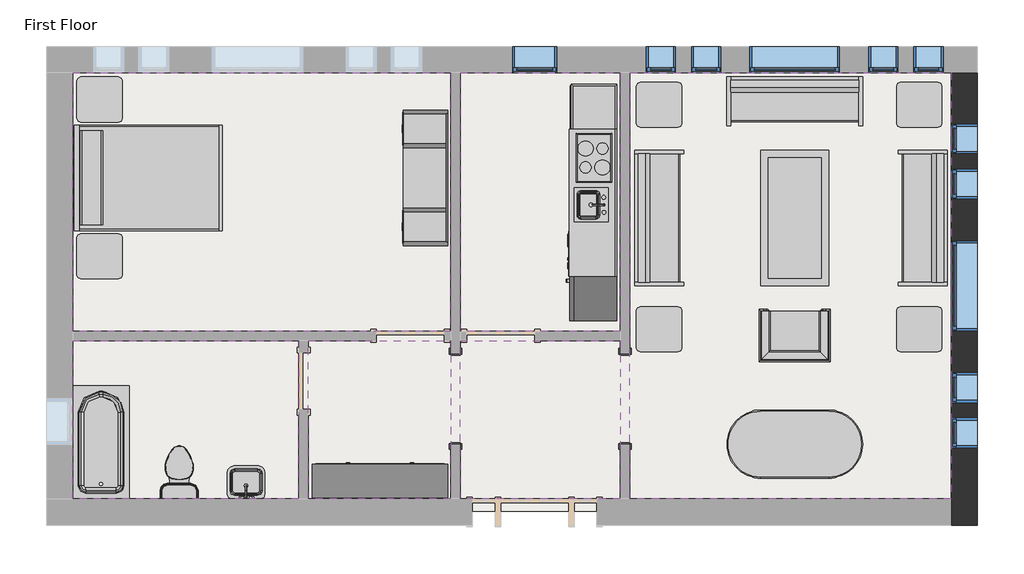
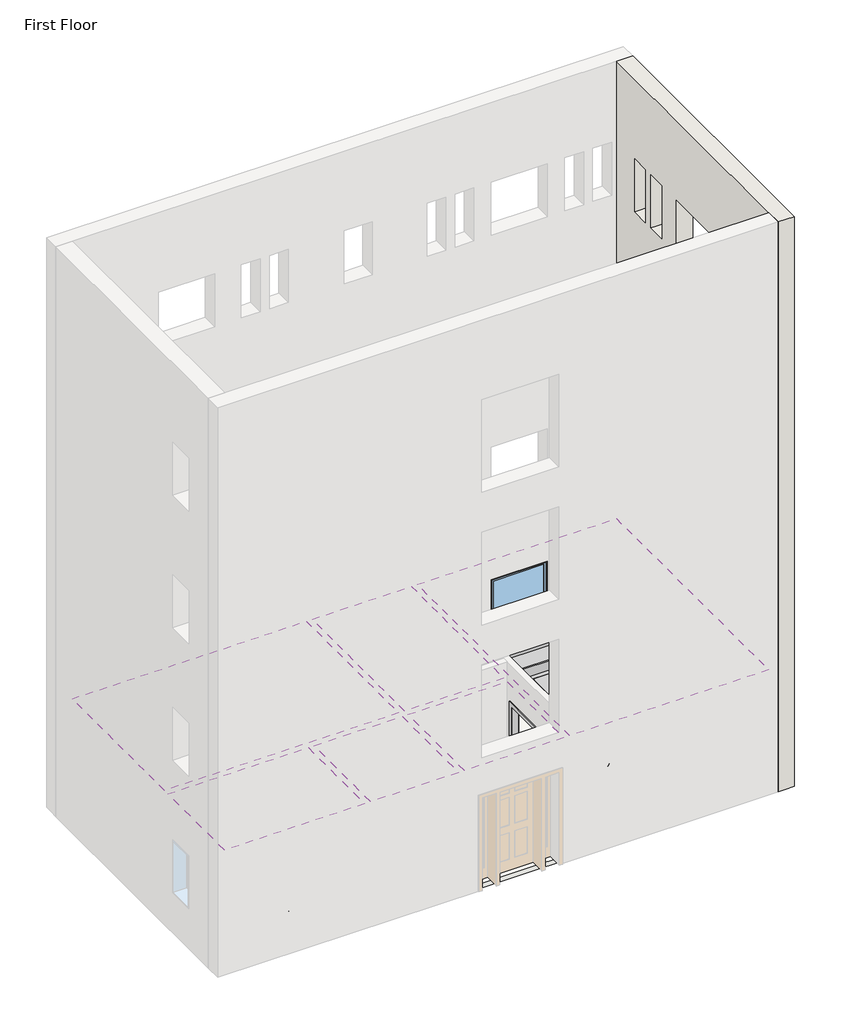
# One storey, part 2 of 2: 15 furniture elements, 11 windows, 6 coverings, 3 flow terminals, 3 proxies, 1 slab, 1 wall.
"""IFC4 building model written with IfcOpenShell, lengths in millimetres."""

from ifc_helpers import new_model, si_unit, frame, origin, place, context, project, spatial, polyline, outline, extrude, faceted_brep, transform, mapped, element, save
from components import proxy_64a468c4, proxy_f44482cc, flow_terminal_0aeb31e3, toilet_domestic_3d_toilet_domestic_3d_f7549cf7, toilet_domestic_3d_toilet_domestic_3d_183bbd19, tub_rectangular_3d_tub_rectangular_3d_5e45a89b, furniture_096e7f55, chair_corbu_chair_corbu_2764bdef, furniture_7c473f12, furniture_ddc78764, furniture_4ef38d96, furniture_cd93a443, furniture_2c34a4f9, furniture_3a588284, furniture_1befe2a2, window_da97879f, window_d61ef850, window_60baf983, window_6eb97611

model = new_model("IFC4")

# Units and contexts
model_context = context("Model", 3, world=origin())
ifc_project = project(units=[si_unit("LENGTHUNIT", "METRE", prefix="MILLI")], contexts=[model_context])

# Site, building, storey
site = spatial("IfcSite", under=ifc_project)
building = spatial("IfcBuilding", under=site)
storey = spatial("IfcBuildingStorey", under=building, Name="First Floor", Elevation=0.0)

# Proxies
placement = place(None, origin())
proxy_shape = proxy_64a468c4(model_context)
element("IfcBuildingElementProxy", 1, Name="Kitchenette - Medium : 8'6\"", ObjectType="Kitchenette - Medium : 8'6\"", at=placement, inside=storey, context=model_context, shape_type="MappedRepresentation", body=[
    mapped(proxy_shape, transform((-3887.7589563, 8837.7956433, 0.0), x_axis=(0.0, -1.0, 0.0), y_axis=(1.0, 0.0, 0.0), z_axis=(0.0, 0.0, 1.0))),
])
proxy_2_shape = proxy_f44482cc(model_context)
element("IfcBuildingElementProxy", 2, Name="Opening-Cased : 48\" x 84\"", ObjectType="Opening-Cased : 48\" x 84\"", at=placement, inside=storey, context=model_context, shape_type="MappedRepresentation", body=[
    mapped(proxy_2_shape, transform((-3773.4589563, 5882.4203434, 0.0), x_axis=(0.0, 1.0, 0.0), y_axis=(-1.0, 0.0, 0.0), z_axis=(0.0, 0.0, 1.0))),
])
element("IfcBuildingElementProxy", 3, Name="Opening-Cased : 48\" x 84\"", ObjectType="Opening-Cased : 48\" x 84\"", at=placement, inside=storey, context=model_context, shape_type="MappedRepresentation", body=[
    mapped(proxy_2_shape, transform((-6059.4589563, 5866.04303, 0.0), x_axis=(0.0, -1.0, 0.0), y_axis=(1.0, 0.0, 0.0), z_axis=(0.0, 0.0, 1.0))),
])

# Coverings
element("IfcCovering", 4, ObjectType="GWB on Mtl. Stud", at=placement, inside=storey, context=model_context, shape_type="SweptSolid", body=[
    extrude(outline(polyline([(-11217.2464563, 10270.0191867), (-6122.9589563, 10270.0191867), (-6122.9589563, 6787.0441867), (-11217.2464563, 6787.0441867), (-11217.2464563, 10270.0191867)])), frame((0.0, 0.0, 2590.8), z_axis=(0.0, 0.0, 1.0), x_axis=(1.0, 0.0, 0.0)), (0.0, 0.0, 1.0), 107.95),
])
element("IfcCovering", 5, ObjectType="GWB on Mtl. Stud", at=placement, inside=storey, context=model_context, shape_type="SweptSolid", body=[
    extrude(outline(polyline([(-5995.9589563, 6787.0441867), (-5995.9589563, 10270.0191867), (-3836.9589563, 10270.0191867), (-3836.9589563, 6787.0441867), (-5995.9589563, 6787.0441867)])), frame((0.0, 0.0, 2590.8), z_axis=(0.0, 0.0, 1.0), x_axis=(1.0, 0.0, 0.0)), (0.0, 0.0, 1.0), 107.95),
])
element("IfcCovering", 6, ObjectType="GWB on Mtl. Stud", at=placement, inside=storey, context=model_context, shape_type="SweptSolid", body=[
    extrude(outline(polyline([(-3709.9589563, 4526.4441867), (-3709.9589563, 10270.0191867), (622.3285437, 10270.0191867), (622.3285437, 4526.4441867), (-3709.9589563, 4526.4441867)])), frame((0.0, 0.0, 2590.8), z_axis=(0.0, 0.0, 1.0), x_axis=(1.0, 0.0, 0.0)), (0.0, 0.0, 1.0), 107.95),
])
element("IfcCovering", 7, ObjectType="GWB on Mtl. Stud", at=placement, inside=storey, context=model_context, shape_type="SweptSolid", body=[
    extrude(outline(polyline([(-3836.9589563, 4526.4441867), (-5995.9589563, 4526.4441867), (-5995.9589563, 6660.0441867), (-3836.9589563, 6660.0441867), (-3836.9589563, 4526.4441867)])), frame((0.0, 0.0, 2590.8), z_axis=(0.0, 0.0, 1.0), x_axis=(1.0, 0.0, 0.0)), (0.0, 0.0, 1.0), 107.95),
])
element("IfcCovering", 8, ObjectType="GWB on Mtl. Stud", at=placement, inside=storey, context=model_context, shape_type="SweptSolid", body=[
    extrude(outline(polyline([(-6122.9589563, 4526.4441867), (-8042.2464563, 4526.4441867), (-8042.2464563, 6660.0441867), (-6122.9589563, 6660.0441867), (-6122.9589563, 4526.4441867)])), frame((0.0, 0.0, 2590.8), z_axis=(0.0, 0.0, 1.0), x_axis=(1.0, 0.0, 0.0)), (0.0, 0.0, 1.0), 107.95),
])
element("IfcCovering", 9, ObjectType="GWB on Mtl. Stud", at=placement, inside=storey, context=model_context, shape_type="SweptSolid", body=[
    extrude(outline(polyline([(-8169.2464563, 6660.0441867), (-8169.2464563, 4526.4441867), (-11217.2464563, 4526.4441867), (-11217.2464563, 6660.0441867), (-8169.2464563, 6660.0441867)])), frame((0.0, 0.0, 2590.8), z_axis=(0.0, 0.0, 1.0), x_axis=(1.0, 0.0, 0.0)), (0.0, 0.0, 1.0), 107.95),
])

# Flow terminals
flow_terminal_shape = flow_terminal_0aeb31e3(model_context)
element("IfcFlowTerminal", 10, ObjectType="Sink Vanity-Square : 24\" x 19\"", at=placement, inside=storey, context=model_context, shape_type="MappedRepresentation", body=[
    mapped(flow_terminal_shape, transform((-8864.7572157, 4706.5895878, 0.0), x_axis=(-1.0, 0.0, 0.0), y_axis=(0.0, -1.0, 0.0), z_axis=(0.0, 0.0, 1.0))),
])
toilet_domestic_3d_toilet_domestic_3d_shape = toilet_domestic_3d_toilet_domestic_3d_f7549cf7(model_context)
toilet_domestic_3d_toilet_domestic_3d_2_shape = toilet_domestic_3d_toilet_domestic_3d_183bbd19(model_context)
element("IfcFlowTerminal", 11, ObjectType="Toilet-Domestic-3D : Toilet-Domestic-3D", at=placement, inside=storey, context=model_context, shape_type="MappedRepresentation", body=[
    mapped(toilet_domestic_3d_toilet_domestic_3d_shape, transform((-9782.1466587, 4940.866411, 0.0), x_axis=(-1.0000000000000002, 0.0, 0.0), y_axis=(0.0, -1.0000000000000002, 0.0), z_axis=(0.0, 0.0, 1.0))),
    mapped(toilet_domestic_3d_toilet_domestic_3d_2_shape, transform((-9782.1466587, 4940.866411, 0.0), x_axis=(-1.0000000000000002, 0.0, 0.0), y_axis=(0.0, -1.0000000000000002, 0.0), z_axis=(0.0, 0.0, 1.0))),
])
tub_rectangular_3d_tub_rectangular_3d_shape = tub_rectangular_3d_tub_rectangular_3d_5e45a89b(model_context)
element("IfcFlowTerminal", 12, ObjectType="Tub-Rectangular-3D : Tub-Rectangular-3D", at=placement, inside=storey, context=model_context, shape_type="MappedRepresentation", body=[
    mapped(tub_rectangular_3d_tub_rectangular_3d_shape, transform((-11393.4589563, 5637.0471554, 0.0), x_axis=(0.0, 1.0, 0.0), y_axis=(-1.0, 0.0, 0.0), z_axis=(0.0, 0.0, 1.0))),
])

# Furniture
furniture_shape = furniture_096e7f55(model_context)
element("IfcFurniture", 13, ObjectType="Bed-Shaker : Double 56\" x 78\"", at=placement, inside=storey, context=model_context, shape_type="MappedRepresentation", body=[
    mapped(furniture_shape, transform((-11183.1982802, 8871.8755561, 0.0), x_axis=(0.0, 1.0, 0.0), y_axis=(-1.0, 0.0, 0.0), z_axis=(0.0, 0.0, 1.0))),
])
chair_corbu_chair_corbu_shape = chair_corbu_chair_corbu_2764bdef(model_context)
element("IfcFurniture", 14, ObjectType="Chair-Corbu : Chair-Corbu", at=placement, inside=storey, context=model_context, shape_type="MappedRepresentation", body=[
    mapped(chair_corbu_chair_corbu_shape, transform((-914.0851858, 7193.4962359, 0.0), x_axis=(-1.0, 0.0, 0.0), y_axis=(0.0, -1.0, 0.0), z_axis=(0.0, 0.0, 1.0))),
])
furniture_2_shape = furniture_7c473f12(model_context)
element("IfcFurniture", 15, ObjectType="Dresser : 72\" x 60\" x 18\"", at=placement, inside=storey, context=model_context, shape_type="MappedRepresentation", body=[
    mapped(furniture_2_shape, transform((-7344.6522161, 4404.5812326, 0.0), x_axis=(-1.0, 0.0, 0.0), y_axis=(0.0, -1.0, 0.0), z_axis=(0.0, 0.0, 1.0))),
])
furniture_3_shape = furniture_ddc78764(model_context)
element("IfcFurniture", 16, ObjectType="Entertainment Center : 72\" x 72\" x 24\"", at=placement, inside=storey, context=model_context, shape_type="MappedRepresentation", body=[
    mapped(furniture_3_shape, transform((-6059.4589563, 8852.8255561, 0.0), x_axis=(0.0, -1.0, 0.0), y_axis=(1.0, 0.0, 0.0), z_axis=(0.0, 0.0, 1.0))),
])
furniture_4_shape = furniture_4ef38d96(model_context)
element("IfcFurniture", 17, ObjectType="Sofa : 72\"", at=placement, inside=storey, context=model_context, shape_type="MappedRepresentation", body=[
    mapped(furniture_4_shape, transform((-1557.8294481, 9741.2775883, 0.0), x_axis=(1.0, 0.0, 0.0), y_axis=(0.0, 1.0, 0.0), z_axis=(0.0, 0.0, 1.0))),
])
element("IfcFurniture", 18, ObjectType="Sofa : 72\"", at=placement, inside=storey, context=model_context, shape_type="MappedRepresentation", body=[
    mapped(furniture_4_shape, transform((93.5869453, 8383.0021785, 0.0), x_axis=(0.0, -1.0, 0.0), y_axis=(1.0, 0.0, 0.0), z_axis=(0.0, 0.0, 1.0))),
])
element("IfcFurniture", 19, ObjectType="Sofa : 72\"", at=placement, inside=storey, context=model_context, shape_type="MappedRepresentation", body=[
    mapped(furniture_4_shape, transform((-3170.104858, 8242.2611949, 0.0), x_axis=(0.0, 1.0, 0.0), y_axis=(-1.0, 0.0, 0.0), z_axis=(0.0, 0.0, 1.0))),
])
furniture_5_shape = furniture_cd93a443(model_context)
element("IfcFurniture", 20, ObjectType="Table-Coffee : 36\" x 72\" x 18\"", at=placement, inside=storey, context=model_context, shape_type="MappedRepresentation", body=[
    mapped(furniture_5_shape, transform((-1582.6700341, 8330.8974534, 0.0), x_axis=(0.0, -1.0, 0.0), y_axis=(1.0, 0.0, 0.0), z_axis=(0.0, 0.0, 1.0))),
])
furniture_6_shape = furniture_2c34a4f9(model_context)
element("IfcFurniture", 21, ObjectType="Table-Dining Oval : 36\" x 72\"", at=placement, inside=storey, context=model_context, shape_type="MappedRepresentation", body=[
    mapped(furniture_6_shape, transform((-1085.6392842, 5622.7300473, 0.0), x_axis=(1.0, 0.0, 0.0), y_axis=(0.0, 1.0, 0.0), z_axis=(0.0, 0.0, 1.0))),
])
furniture_7_shape = furniture_3a588284(model_context)
element("IfcFurniture", 22, ObjectType="Table-End : 24\" x 24\"", at=placement, inside=storey, context=model_context, shape_type="MappedRepresentation", body=[
    mapped(furniture_7_shape, transform((-119.5925866, 9684.2316867, 0.0), x_axis=(1.0, 0.0, 0.0), y_axis=(0.0, 1.0, 0.0), z_axis=(0.0, 0.0, 1.0))),
])
element("IfcFurniture", 23, ObjectType="Table-End : 24\" x 24\"", at=placement, inside=storey, context=model_context, shape_type="MappedRepresentation", body=[
    mapped(furniture_7_shape, transform((-3624.7925866, 9684.2316867, 0.0), x_axis=(1.0, 0.0, 0.0), y_axis=(0.0, 1.0, 0.0), z_axis=(0.0, 0.0, 1.0))),
])
element("IfcFurniture", 24, ObjectType="Table-End : 24\" x 24\"", at=placement, inside=storey, context=model_context, shape_type="MappedRepresentation", body=[
    mapped(furniture_7_shape, transform((-3624.7925866, 6660.0441867, 0.0), x_axis=(1.0, 0.0, 0.0), y_axis=(0.0, 1.0, 0.0), z_axis=(0.0, 0.0, 1.0))),
])
element("IfcFurniture", 25, ObjectType="Table-End : 24\" x 24\"", at=placement, inside=storey, context=model_context, shape_type="MappedRepresentation", body=[
    mapped(furniture_7_shape, transform((-119.5925866, 6660.0441867, 0.0), x_axis=(1.0, 0.0, 0.0), y_axis=(0.0, 1.0, 0.0), z_axis=(0.0, 0.0, 1.0))),
])
element("IfcFurniture", 26, ObjectType="Table-End : 24\" x 24\"", at=placement, inside=storey, context=model_context, shape_type="MappedRepresentation", body=[
    mapped(furniture_7_shape, transform((-11164.2346356, 9756.0737357, 0.0), x_axis=(1.0, 0.0, 0.0), y_axis=(0.0, 1.0, 0.0), z_axis=(0.0, 0.0, 1.0))),
])
furniture_8_shape = furniture_1befe2a2(model_context)
element("IfcFurniture", 27, ObjectType="Table-End : 24\" x 24\"", at=placement, inside=storey, context=model_context, shape_type="MappedRepresentation", body=[
    mapped(furniture_8_shape, transform((-11164.2346356, 7949.5773764, 0.0), x_axis=(1.0, 0.0, 0.0), y_axis=(0.0, 1.0, 0.0), z_axis=(0.0, 0.0, 1.0))),
])

# Slab
element("IfcSlab", 28, ObjectType="LW Concrete on Metal Deck", at=placement, inside=storey, context=model_context, shape_type="SweptSolid", body=[
    extrude(outline(polyline([(787.4285437, 10435.1191867), (787.4285437, 4361.3441867), (-11382.3464563, 4361.3441867), (-11382.3464563, 10435.1191867), (787.4285437, 10435.1191867)])), frame((0.0, 0.0, -104.775), z_axis=(0.0, 0.0, 1.0), x_axis=(1.0, 0.0, 0.0)), (0.0, 0.0, 1.0), 104.775),
])

# Wall
element("IfcWall", 29, ObjectType="Exterior - Brick on Mtl. Stud", at=placement, inside=storey, context=model_context, shape_type="Brep", body=[
    faceted_brep([(622.3285437, 10270.0191867, 0.0), (622.3285437, 4526.4441867, 0.0), (622.3285437, 4361.3441867, 0.0), (622.3285437, 4174.0191867, 0.0), (622.3285437, 4174.0191867, 13106.4), (622.3285437, 4526.4441867, 13106.4), (622.3285437, 10270.0191867, 13106.4), (622.3285437, 8007.8316867, 2133.6), (622.3285437, 6788.6316867, 2133.6), (622.3285437, 6788.6316867, 914.4), (622.3285437, 8007.8316867, 914.4), (622.3285437, 9582.6316867, 2133.6), (622.3285437, 9176.2316867, 2133.6), (622.3285437, 9176.2316867, 914.4), (622.3285437, 9582.6316867, 914.4), (622.3285437, 8973.0316867, 2133.6), (622.3285437, 8566.6316867, 2133.6), (622.3285437, 8566.6316867, 914.4), (622.3285437, 8973.0316867, 914.4), (622.3285437, 5213.8316867, 2133.6), (622.3285437, 5213.8316867, 914.4), (622.3285437, 5620.2316867, 914.4), (622.3285437, 5620.2316867, 2133.6), (622.3285437, 5823.4316867, 2133.6), (622.3285437, 5823.4316867, 914.4), (622.3285437, 6229.8316867, 914.4), (622.3285437, 6229.8316867, 2133.6), (622.3285437, 8007.8316867, 11277.6), (622.3285437, 6788.6316867, 11277.6), (622.3285437, 6788.6316867, 10058.4), (622.3285437, 8007.8316867, 10058.4), (622.3285437, 9582.6316867, 11277.6), (622.3285437, 9176.2316867, 11277.6), (622.3285437, 9176.2316867, 10058.4), (622.3285437, 9582.6316867, 10058.4), (622.3285437, 8973.0316867, 11277.6), (622.3285437, 8566.6316867, 11277.6), (622.3285437, 8566.6316867, 10058.4), (622.3285437, 8973.0316867, 10058.4), (622.3285437, 5213.8316867, 11277.6), (622.3285437, 5213.8316867, 10058.4), (622.3285437, 5620.2316867, 10058.4), (622.3285437, 5620.2316867, 11277.6), (622.3285437, 5823.4316867, 11277.6), (622.3285437, 5823.4316867, 10058.4), (622.3285437, 6229.8316867, 10058.4), (622.3285437, 6229.8316867, 11277.6), (622.3285437, 8007.8316867, 5181.6), (622.3285437, 6788.6316867, 5181.6), (622.3285437, 6788.6316867, 3962.4), (622.3285437, 8007.8316867, 3962.4), (622.3285437, 9582.6316867, 5181.6), (622.3285437, 9176.2316867, 5181.6), (622.3285437, 9176.2316867, 3962.4), (622.3285437, 9582.6316867, 3962.4), (622.3285437, 8973.0316867, 5181.6), (622.3285437, 8566.6316867, 5181.6), (622.3285437, 8566.6316867, 3962.4), (622.3285437, 8973.0316867, 3962.4), (622.3285437, 5213.8316867, 5181.6), (622.3285437, 5213.8316867, 3962.4), (622.3285437, 5620.2316867, 3962.4), (622.3285437, 5620.2316867, 5181.6), (622.3285437, 5823.4316867, 5181.6), (622.3285437, 5823.4316867, 3962.4), (622.3285437, 6229.8316867, 3962.4), (622.3285437, 6229.8316867, 5181.6), (622.3285437, 8007.8316867, 8229.6), (622.3285437, 6788.6316867, 8229.6), (622.3285437, 6788.6316867, 7010.4), (622.3285437, 8007.8316867, 7010.4), (622.3285437, 9582.6316867, 8229.6), (622.3285437, 9176.2316867, 8229.6), (622.3285437, 9176.2316867, 7010.4), (622.3285437, 9582.6316867, 7010.4), (622.3285437, 8973.0316867, 8229.6), (622.3285437, 8566.6316867, 8229.6), (622.3285437, 8566.6316867, 7010.4), (622.3285437, 8973.0316867, 7010.4), (622.3285437, 5213.8316867, 8229.6), (622.3285437, 5213.8316867, 7010.4), (622.3285437, 5620.2316867, 7010.4), (622.3285437, 5620.2316867, 8229.6), (622.3285437, 5823.4316867, 8229.6), (622.3285437, 5823.4316867, 7010.4), (622.3285437, 6229.8316867, 7010.4), (622.3285437, 6229.8316867, 8229.6), (974.7535437, 10270.0191867, 0.0), (974.7535437, 10270.0191867, 13106.4), (974.7535437, 4174.0191867, 13106.4), (974.7535437, 4174.0191867, 0.0), (974.7535437, 4361.3441867, 0.0), (974.7535437, 8007.8316867, 2133.6), (974.7535437, 8007.8316867, 914.4), (974.7535437, 6788.6316867, 914.4), (974.7535437, 6788.6316867, 2133.6), (974.7535437, 9582.6316867, 2133.6), (974.7535437, 9582.6316867, 914.4), (974.7535437, 9176.2316867, 914.4), (974.7535437, 9176.2316867, 2133.6), (974.7535437, 8973.0316867, 2133.6), (974.7535437, 8973.0316867, 914.4), (974.7535437, 8566.6316867, 914.4), (974.7535437, 8566.6316867, 2133.6), (974.7535437, 5213.8316867, 2133.6), (974.7535437, 5620.2316867, 2133.6), (974.7535437, 5620.2316867, 914.4), (974.7535437, 5213.8316867, 914.4), (974.7535437, 5823.4316867, 2133.6), (974.7535437, 6229.8316867, 2133.6), (974.7535437, 6229.8316867, 914.4), (974.7535437, 5823.4316867, 914.4), (974.7535437, 8007.8316867, 11277.6), (974.7535437, 8007.8316867, 10058.4), (974.7535437, 6788.6316867, 10058.4), (974.7535437, 6788.6316867, 11277.6), (974.7535437, 9582.6316867, 11277.6), (974.7535437, 9582.6316867, 10058.4), (974.7535437, 9176.2316867, 10058.4), (974.7535437, 9176.2316867, 11277.6), (974.7535437, 8973.0316867, 11277.6), (974.7535437, 8973.0316867, 10058.4), (974.7535437, 8566.6316867, 10058.4), (974.7535437, 8566.6316867, 11277.6), (974.7535437, 5213.8316867, 11277.6), (974.7535437, 5620.2316867, 11277.6), (974.7535437, 5620.2316867, 10058.4), (974.7535437, 5213.8316867, 10058.4), (974.7535437, 5823.4316867, 11277.6), (974.7535437, 6229.8316867, 11277.6), (974.7535437, 6229.8316867, 10058.4), (974.7535437, 5823.4316867, 10058.4), (974.7535437, 8007.8316867, 5181.6), (974.7535437, 8007.8316867, 3962.4), (974.7535437, 6788.6316867, 3962.4), (974.7535437, 6788.6316867, 5181.6), (974.7535437, 9582.6316867, 5181.6), (974.7535437, 9582.6316867, 3962.4), (974.7535437, 9176.2316867, 3962.4), (974.7535437, 9176.2316867, 5181.6), (974.7535437, 8973.0316867, 5181.6), (974.7535437, 8973.0316867, 3962.4), (974.7535437, 8566.6316867, 3962.4), (974.7535437, 8566.6316867, 5181.6), (974.7535437, 5213.8316867, 5181.6), (974.7535437, 5620.2316867, 5181.6), (974.7535437, 5620.2316867, 3962.4), (974.7535437, 5213.8316867, 3962.4), (974.7535437, 5823.4316867, 5181.6), (974.7535437, 6229.8316867, 5181.6), (974.7535437, 6229.8316867, 3962.4), (974.7535437, 5823.4316867, 3962.4), (974.7535437, 8007.8316867, 8229.6), (974.7535437, 8007.8316867, 7010.4), (974.7535437, 6788.6316867, 7010.4), (974.7535437, 6788.6316867, 8229.6), (974.7535437, 9582.6316867, 8229.6), (974.7535437, 9582.6316867, 7010.4), (974.7535437, 9176.2316867, 7010.4), (974.7535437, 9176.2316867, 8229.6), (974.7535437, 8973.0316867, 8229.6), (974.7535437, 8973.0316867, 7010.4), (974.7535437, 8566.6316867, 7010.4), (974.7535437, 8566.6316867, 8229.6), (974.7535437, 5213.8316867, 8229.6), (974.7535437, 5620.2316867, 8229.6), (974.7535437, 5620.2316867, 7010.4), (974.7535437, 5213.8316867, 7010.4), (974.7535437, 5823.4316867, 8229.6), (974.7535437, 6229.8316867, 8229.6), (974.7535437, 6229.8316867, 7010.4), (974.7535437, 5823.4316867, 7010.4), (787.4285437, 4174.0191867, 0.0), (787.4285437, 10270.0191867, 0.0), (787.4285437, 4361.3441867, 0.0)], [[[0, 1, 2, 3, 4, 5, 6], [7, 8, 9, 10], [11, 12, 13, 14], [15, 16, 17, 18], [19, 20, 21, 22], [23, 24, 25, 26], [27, 28, 29, 30], [31, 32, 33, 34], [35, 36, 37, 38], [39, 40, 41, 42], [43, 44, 45, 46], [47, 48, 49, 50], [51, 52, 53, 54], [55, 56, 57, 58], [59, 60, 61, 62], [63, 64, 65, 66], [67, 68, 69, 70], [71, 72, 73, 74], [75, 76, 77, 78], [79, 80, 81, 82], [83, 84, 85, 86]], [[87, 88, 89, 90, 91], [92, 93, 94, 95], [96, 97, 98, 99], [100, 101, 102, 103], [104, 105, 106, 107], [108, 109, 110, 111], [112, 113, 114, 115], [116, 117, 118, 119], [120, 121, 122, 123], [124, 125, 126, 127], [128, 129, 130, 131], [132, 133, 134, 135], [136, 137, 138, 139], [140, 141, 142, 143], [144, 145, 146, 147], [148, 149, 150, 151], [152, 153, 154, 155], [156, 157, 158, 159], [160, 161, 162, 163], [164, 165, 166, 167], [168, 169, 170, 171]], [[6, 5, 4, 89, 88]], [[4, 3, 172, 90, 89]], [[0, 6, 88, 87, 173]], [[173, 87, 91, 174]], [[3, 2, 174, 172]], [[174, 91, 90, 172]], [[2, 1, 0, 173, 174]], [[93, 92, 7, 10]], [[94, 93, 10, 9]], [[95, 94, 9, 8]], [[92, 95, 8, 7]], [[97, 96, 11, 14]], [[98, 97, 14, 13]], [[99, 98, 13, 12]], [[96, 99, 12, 11]], [[101, 100, 15, 18]], [[102, 101, 18, 17]], [[103, 102, 17, 16]], [[100, 103, 16, 15]], [[20, 19, 104, 107]], [[21, 20, 107, 106]], [[22, 21, 106, 105]], [[19, 22, 105, 104]], [[24, 23, 108, 111]], [[25, 24, 111, 110]], [[26, 25, 110, 109]], [[23, 26, 109, 108]], [[113, 112, 27, 30]], [[114, 113, 30, 29]], [[115, 114, 29, 28]], [[112, 115, 28, 27]], [[117, 116, 31, 34]], [[118, 117, 34, 33]], [[119, 118, 33, 32]], [[116, 119, 32, 31]], [[121, 120, 35, 38]], [[122, 121, 38, 37]], [[123, 122, 37, 36]], [[120, 123, 36, 35]], [[40, 39, 124, 127]], [[41, 40, 127, 126]], [[42, 41, 126, 125]], [[39, 42, 125, 124]], [[44, 43, 128, 131]], [[45, 44, 131, 130]], [[46, 45, 130, 129]], [[43, 46, 129, 128]], [[133, 132, 47, 50]], [[134, 133, 50, 49]], [[135, 134, 49, 48]], [[132, 135, 48, 47]], [[137, 136, 51, 54]], [[138, 137, 54, 53]], [[139, 138, 53, 52]], [[136, 139, 52, 51]], [[141, 140, 55, 58]], [[142, 141, 58, 57]], [[143, 142, 57, 56]], [[140, 143, 56, 55]], [[60, 59, 144, 147]], [[61, 60, 147, 146]], [[62, 61, 146, 145]], [[59, 62, 145, 144]], [[64, 63, 148, 151]], [[65, 64, 151, 150]], [[66, 65, 150, 149]], [[63, 66, 149, 148]], [[153, 152, 67, 70]], [[154, 153, 70, 69]], [[155, 154, 69, 68]], [[152, 155, 68, 67]], [[157, 156, 71, 74]], [[158, 157, 74, 73]], [[159, 158, 73, 72]], [[156, 159, 72, 71]], [[161, 160, 75, 78]], [[162, 161, 78, 77]], [[163, 162, 77, 76]], [[160, 163, 76, 75]], [[80, 79, 164, 167]], [[81, 80, 167, 166]], [[82, 81, 166, 165]], [[79, 82, 165, 164]], [[84, 83, 168, 171]], [[85, 84, 171, 170]], [[86, 85, 170, 169]], [[83, 86, 169, 168]]]),
])

# Windows
window_shape = window_da97879f(model_context)
element("IfcWindow", 30, ObjectType="Fixed : 16\" x 48\"", at=placement, inside=storey, context=model_context, shape_type="MappedRepresentation", body=[
    mapped(window_shape, transform((-3328.9589563, 10446.2316867, 0.0), x_axis=(-1.0, 0.0, 0.0), y_axis=(0.0, -1.0, 0.0), z_axis=(0.0, 0.0, 1.0))),
])
element("IfcWindow", 31, ObjectType="Fixed : 16\" x 48\"", at=placement, inside=storey, context=model_context, shape_type="MappedRepresentation", body=[
    mapped(window_shape, transform((-2719.3589563, 10446.2316867, 0.0), x_axis=(-1.0, 0.0, 0.0), y_axis=(0.0, -1.0, 0.0), z_axis=(0.0, 0.0, 1.0))),
])
element("IfcWindow", 32, ObjectType="Fixed : 16\" x 48\"", at=placement, inside=storey, context=model_context, shape_type="MappedRepresentation", body=[
    mapped(window_shape, transform((798.5410437, 9417.5316867, 0.0), x_axis=(0.0, 1.0, 0.0), y_axis=(-1.0, 0.0, 0.0), z_axis=(0.0, 0.0, 1.0))),
])
element("IfcWindow", 33, ObjectType="Fixed : 16\" x 48\"", at=placement, inside=storey, context=model_context, shape_type="MappedRepresentation", body=[
    mapped(window_shape, transform((798.5410437, 8807.9316867, 0.0), x_axis=(0.0, 1.0, 0.0), y_axis=(-1.0, 0.0, 0.0), z_axis=(0.0, 0.0, 1.0))),
])
window_2_shape = window_d61ef850(model_context)
element("IfcWindow", 34, ObjectType="Fixed : 16\" x 48\"", at=placement, inside=storey, context=model_context, shape_type="MappedRepresentation", body=[
    mapped(window_2_shape, transform((354.0410437, 10446.2316867, 0.0), x_axis=(1.0, 0.0, 0.0), y_axis=(0.0, 1.0, 0.0), z_axis=(0.0, 0.0, 1.0))),
])
element("IfcWindow", 35, ObjectType="Fixed : 16\" x 48\"", at=placement, inside=storey, context=model_context, shape_type="MappedRepresentation", body=[
    mapped(window_2_shape, transform((-255.5589563, 10446.2316867, 0.0), x_axis=(1.0, 0.0, 0.0), y_axis=(0.0, 1.0, 0.0), z_axis=(0.0, 0.0, 1.0))),
])
element("IfcWindow", 36, ObjectType="Fixed : 16\" x 48\"", at=placement, inside=storey, context=model_context, shape_type="MappedRepresentation", body=[
    mapped(window_2_shape, transform((798.5410437, 5378.9316867, 0.0), x_axis=(0.0, -1.0, 0.0), y_axis=(1.0, 0.0, 0.0), z_axis=(0.0, 0.0, 1.0))),
])
element("IfcWindow", 37, ObjectType="Fixed : 16\" x 48\"", at=placement, inside=storey, context=model_context, shape_type="MappedRepresentation", body=[
    mapped(window_2_shape, transform((798.5410437, 5988.5316867, 0.0), x_axis=(0.0, -1.0, 0.0), y_axis=(1.0, 0.0, 0.0), z_axis=(0.0, 0.0, 1.0))),
])
window_3_shape = window_60baf983(model_context)
element("IfcWindow", 38, ObjectType="Fixed : 24\" x 48\"", at=placement, inside=storey, context=model_context, shape_type="MappedRepresentation", body=[
    mapped(window_3_shape, transform((-5030.7589563, 10446.2316867, 0.0), x_axis=(-1.0, 0.0, 0.0), y_axis=(0.0, -1.0, 0.0), z_axis=(0.0, 0.0, 1.0))),
])
window_4_shape = window_6eb97611(model_context)
element("IfcWindow", 39, ObjectType="Fixed : 48\" x 48\"", at=placement, inside=storey, context=model_context, shape_type="MappedRepresentation", body=[
    mapped(window_4_shape, transform((-1525.5589563, 10446.2316867, 0.0), x_axis=(-1.0, 0.0, 0.0), y_axis=(0.0, -1.0, 0.0), z_axis=(0.0, 0.0, 1.0))),
])
element("IfcWindow", 40, ObjectType="Fixed : 48\" x 48\"", at=placement, inside=storey, context=model_context, shape_type="MappedRepresentation", body=[
    mapped(window_4_shape, transform((798.5410437, 7436.3316867, 0.0), x_axis=(0.0, 1.0, 0.0), y_axis=(-1.0, 0.0, 0.0), z_axis=(0.0, 0.0, 1.0))),
])

save(model, "model.ifc")
